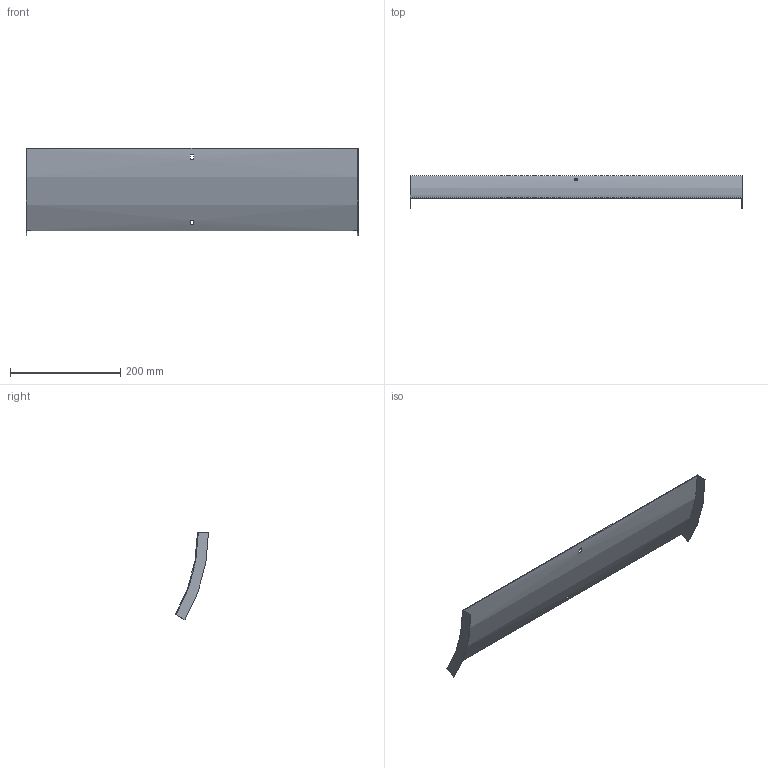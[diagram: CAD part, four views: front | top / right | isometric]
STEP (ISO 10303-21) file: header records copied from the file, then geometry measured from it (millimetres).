
FILE_DESCRIPTION (( 'STEP AP214' ), '1' );
FILE_NAME ('B2X32N3R600X.step', '2025-03-20T09:40:08', ( '' ), ( '' ), 'SwSTEP 2.0', 'SolidWorks 2023', '' );
FILE_SCHEMA (( 'AUTOMOTIVE_DESIGN' ));
Length unit declared in the file: millimetre
Products named in the file (1): B2X32N3R600X
Bounding box: 603 x 59.99 x 159.25 mm (x, y, z)
Volume: 150534.3 mm3; surface area: 203224.6 mm2
Topology: 1 solids, 1 shells, 18 faces, 48 edges, 32 vertices
Faces by surface type: plane 14, cylinder 4
Entity records: 599 total; most frequent: DIRECTION 102, CARTESIAN_POINT 99, ORIENTED_EDGE 96, EDGE_CURVE 48, AXIS2_PLACEMENT_3D 35, VERTEX_POINT 32, VECTOR 32, LINE 32
